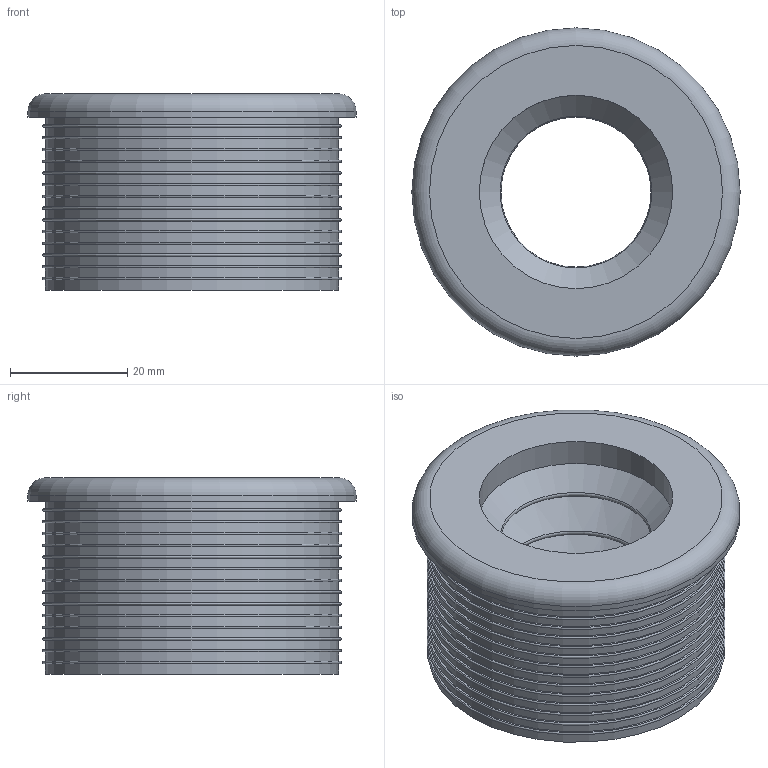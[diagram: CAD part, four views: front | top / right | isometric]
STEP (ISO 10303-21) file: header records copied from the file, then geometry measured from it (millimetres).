
FILE_DESCRIPTION(/* description */ (''),/* implementation_level */ '2;1');
FILE_NAME(/* name */ 'H:\Geberit-Teile\Export\Manschetten 152.6xx\stp\152689.stp',/* time_stamp */ '2016-07-27T14:29:55+02:00',/* author */ ('seihe2'),/* organization */ (''),/* preprocessor_version */ 'ST-DEVELOPER v15.2',/* originating_system */ 'Autodesk Inventor 2014',/* authorisation */ '');
FILE_SCHEMA (('AUTOMOTIVE_DESIGN { 1 0 10303 214 3 1 1 }'));
Length unit declared in the file: millimetre
Products named in the file (1): 152689
Bounding box: 56 x 56 x 33.5 mm (x, y, z)
Volume: 30703.2 mm3; surface area: 21038.1 mm2
Topology: 1 solids, 1 shells, 83 faces, 136 edges, 85 vertices
Faces by surface type: plane 32, torus 24, cylinder 21, cone 6
Full cylindrical faces by diameter (mm): 26 x1, 33 x1, 44 x3, 50 x15, 56 x1
Entity records: 1775 total; most frequent: DIRECTION 334, CARTESIAN_POINT 250, AXIS2_PLACEMENT_3D 167, EDGE_LOOP 166, ORIENTED_EDGE 166, FACE_BOUND 99, STYLED_ITEM 84, CIRCLE 83
